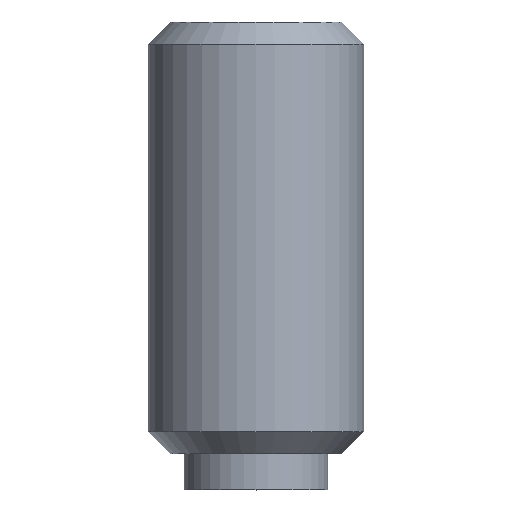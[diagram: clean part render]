
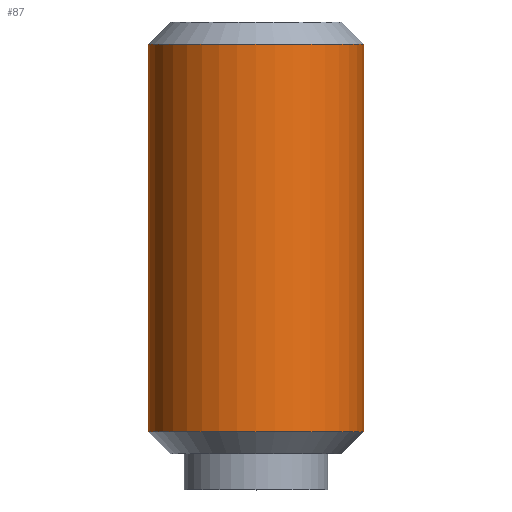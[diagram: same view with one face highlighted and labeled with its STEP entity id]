
A CAD part, top view. The second image highlights one B-rep face of the part: STEP entity #87.
In plain terms, the highlighted cylindrical face has radius 3 mm (diameter 6 mm), a full revolution.
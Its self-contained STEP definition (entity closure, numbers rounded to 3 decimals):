
#87 = ADVANCED_FACE( '', ( #118, #119 ), #120, .T. );
#118 = FACE_OUTER_BOUND( '', #152, .T. );
#119 = FACE_OUTER_BOUND( '', #153, .T. );
#120 = CYLINDRICAL_SURFACE( '', #154, 3. );
#152 = EDGE_LOOP( '', ( #238 ) );
#153 = EDGE_LOOP( '', ( #239 ) );
#154 = AXIS2_PLACEMENT_3D( '', #240, #241, #242 );
#238 = ORIENTED_EDGE( '', *, *, #270, .F. );
#239 = ORIENTED_EDGE( '', *, *, #271, .T. );
#240 = CARTESIAN_POINT( '', ( 0., 0., 0. ) );
#241 = DIRECTION( '', ( 0., 1., 0. ) );
#242 = DIRECTION( '', ( 0., 0., -1. ) );
#270 = EDGE_CURVE( '', #310, #310, #311, .T. );
#271 = EDGE_CURVE( '', #312, #312, #313, .T. );
#310 = VERTEX_POINT( '', #370 );
#311 = CIRCLE( '', #371, 3. );
#312 = VERTEX_POINT( '', #372 );
#313 = CIRCLE( '', #373, 3. );
#370 = CARTESIAN_POINT( '', ( 0., 1.614, -3. ) );
#371 = AXIS2_PLACEMENT_3D( '', #404, #405, #406 );
#372 = CARTESIAN_POINT( '', ( 0., 12.387, -3. ) );
#373 = AXIS2_PLACEMENT_3D( '', #407, #408, #409 );
#404 = CARTESIAN_POINT( '', ( 0., 1.614, 0. ) );
#405 = DIRECTION( '', ( 0., -1., 0. ) );
#406 = DIRECTION( '', ( 0., 0., -1. ) );
#407 = CARTESIAN_POINT( '', ( 0., 12.387, 0. ) );
#408 = DIRECTION( '', ( 0., -1., 0. ) );
#409 = DIRECTION( '', ( 0., 0., -1. ) );
